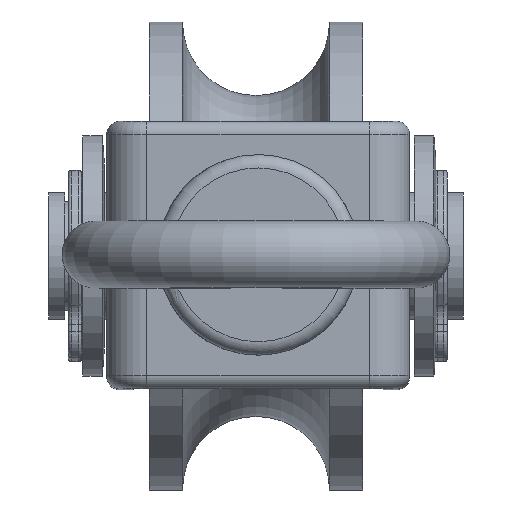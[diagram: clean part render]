
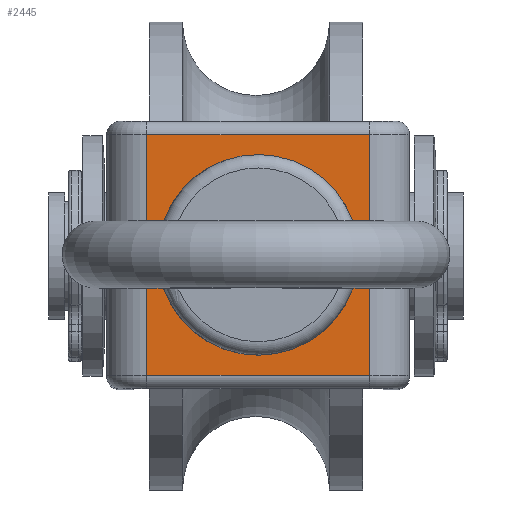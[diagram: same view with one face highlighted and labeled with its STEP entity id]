
A CAD part, top view. The second image highlights one B-rep face of the part: STEP entity #2445.
In plain terms, the highlighted planar face has unit normal (0, 0, 1).
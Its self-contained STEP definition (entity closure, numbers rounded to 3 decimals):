
#149=FACE_BOUND('',#805,.T.);
#179=PLANE('',#2766);
#269=LINE('',#5723,#385);
#270=LINE('',#5725,#386);
#271=LINE('',#5727,#387);
#272=LINE('',#5728,#388);
#385=VECTOR('',#3417,10.);
#386=VECTOR('',#3418,10.);
#387=VECTOR('',#3419,10.);
#388=VECTOR('',#3420,10.);
#635=FACE_OUTER_BOUND('',#804,.T.);
#804=EDGE_LOOP('',(#2111,#2112,#2113,#2114));
#805=EDGE_LOOP('',(#2115));
#978=CIRCLE('',#2761,3.5);
#1184=VERTEX_POINT('',#5711);
#1187=VERTEX_POINT('',#5721);
#1188=VERTEX_POINT('',#5722);
#1189=VERTEX_POINT('',#5724);
#1190=VERTEX_POINT('',#5726);
#1499=EDGE_CURVE('',#1184,#1184,#978,.T.);
#1504=EDGE_CURVE('',#1187,#1188,#269,.T.);
#1505=EDGE_CURVE('',#1187,#1189,#270,.T.);
#1506=EDGE_CURVE('',#1190,#1189,#271,.T.);
#1507=EDGE_CURVE('',#1188,#1190,#272,.T.);
#2111=ORIENTED_EDGE('',*,*,#1504,.F.);
#2112=ORIENTED_EDGE('',*,*,#1505,.T.);
#2113=ORIENTED_EDGE('',*,*,#1506,.F.);
#2114=ORIENTED_EDGE('',*,*,#1507,.F.);
#2115=ORIENTED_EDGE('',*,*,#1499,.F.);
#2445=ADVANCED_FACE('',(#635,#149),#179,.T.);
#2761=AXIS2_PLACEMENT_3D('',#5712,#3404,#3405);
#2766=AXIS2_PLACEMENT_3D('',#5720,#3415,#3416);
#3404=DIRECTION('center_axis',(0.,0.,1.));
#3405=DIRECTION('ref_axis',(-1.,0.,0.));
#3415=DIRECTION('center_axis',(0.,0.,1.));
#3416=DIRECTION('ref_axis',(1.,0.,0.));
#3417=DIRECTION('',(-1.,0.,0.));
#3418=DIRECTION('',(0.,1.,0.));
#3419=DIRECTION('',(1.,0.,0.));
#3420=DIRECTION('',(0.,1.,0.));
#5711=CARTESIAN_POINT('',(11.662,0.,62.));
#5712=CARTESIAN_POINT('Origin',(8.162,0.,62.));
#5720=CARTESIAN_POINT('Origin',(-0.176,0.,62.));
#5721=CARTESIAN_POINT('',(16.5,-9.,62.));
#5722=CARTESIAN_POINT('',(-0.176,-9.,62.));
#5723=CARTESIAN_POINT('',(3.993,-9.,62.));
#5724=CARTESIAN_POINT('',(16.5,9.,62.));
#5725=CARTESIAN_POINT('',(16.5,0.,62.));
#5726=CARTESIAN_POINT('',(-0.176,9.,62.));
#5727=CARTESIAN_POINT('',(3.993,9.,62.));
#5728=CARTESIAN_POINT('',(-0.176,0.,62.));
